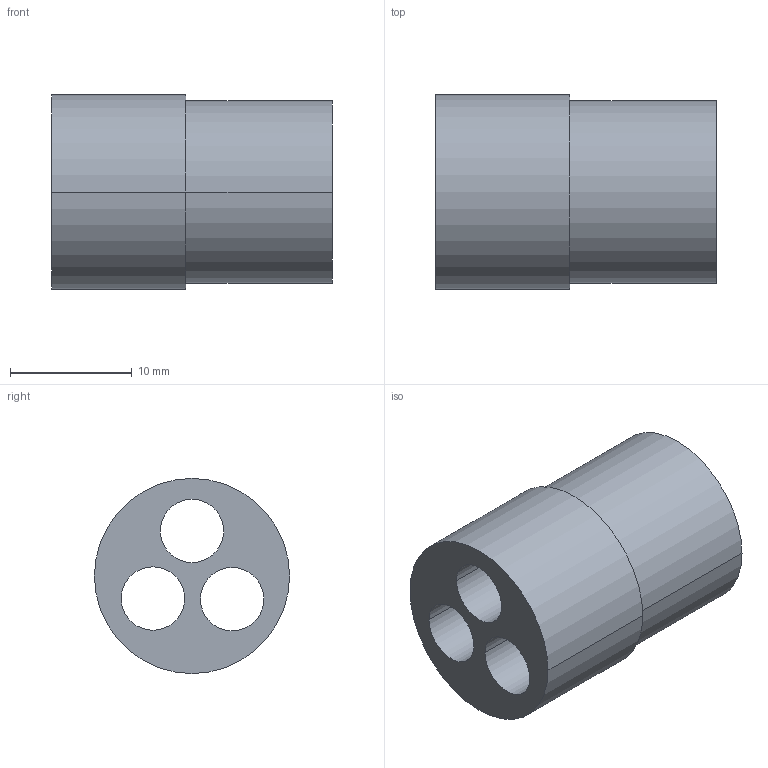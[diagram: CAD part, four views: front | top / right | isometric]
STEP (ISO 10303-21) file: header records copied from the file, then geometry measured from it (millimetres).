
FILE_DESCRIPTION(('Creo Elements/Direct Modeling STEP Export'),'2;1');
FILE_NAME('H08-0037-CL907_G13-503.stp','2012-02-15T14:36:25',(''),(''),'Creo Elements/Direct Modeling STEP processor for AP214 (Solid Model)','Creo Elements/Direct Modeling 18.0B 02-Dec-2011 (C) Parametric Technology GmbH','');
FILE_SCHEMA(('AUTOMOTIVE_DESIGN { 1 0 10303 214 1 1 1 1 }'));
Length unit declared in the file: millimetre
Products named in the file (1): G13-503
Bounding box: 23 x 16 x 16 mm (x, y, z)
Volume: 2866.9 mm3; surface area: 2520.3 mm2
Topology: 1 solids, 1 shells, 13 faces, 30 edges, 20 vertices
Faces by surface type: cylinder 10, plane 3
Entity records: 368 total; most frequent: ORIENTED_EDGE 60, DIRECTION 58, CARTESIAN_POINT 54, EDGE_CURVE 30, AXIS2_PLACEMENT_3D 24, VERTEX_POINT 20, EDGE_LOOP 20, FACE_OUTER_BOUND 13
